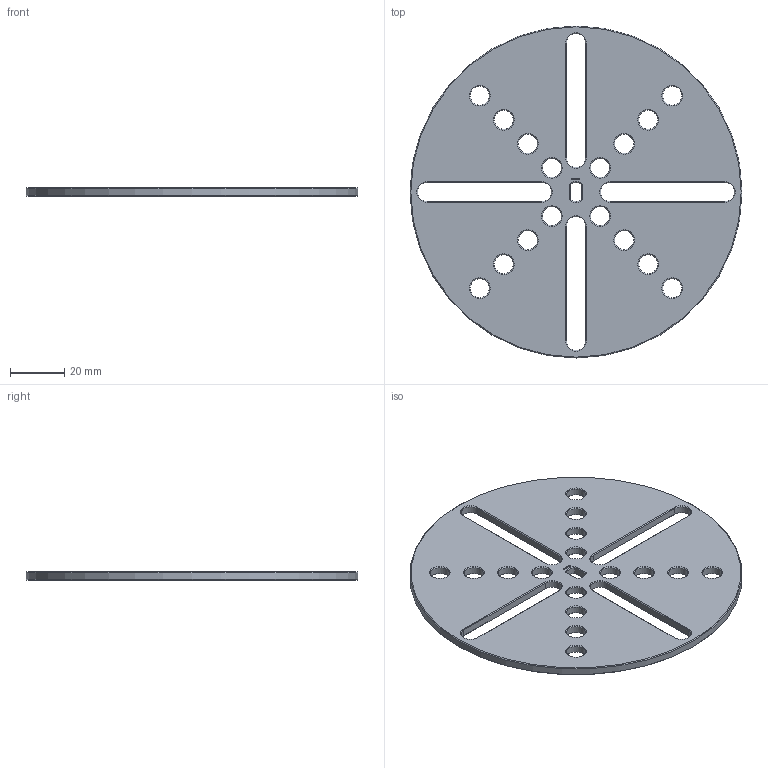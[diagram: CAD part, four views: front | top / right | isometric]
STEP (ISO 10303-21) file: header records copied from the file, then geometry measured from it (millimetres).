
FILE_DESCRIPTION(/* description */ (''),/* implementation_level */ '2;1');
FILE_NAME(/* name */ '/Users/paulokiefe/Desktop/STEMFIE/Fasteners/Washers/Fixed/Washer WSR FXD BU0.25x9.75 - SPN-WSR-0036 v1.step',/* time_stamp */ '2020-09-27T23:23:49+02:00',/* author */ (''),/* organization */ (''),/* preprocessor_version */ 'ST-DEVELOPER v18.1',/* originating_system */ 'Autodesk Translation Framework v9.3.0.1241',/* authorisation */ '');
FILE_SCHEMA (('AUTOMOTIVE_DESIGN { 1 0 10303 214 3 1 1 }'));
Length unit declared in the file: millimetre
Products named in the file (1): Washer WSR FXD BU0.25x9.75 - SPN-WSR-0036
Bounding box: 121.88 x 121.88 x 3.12 mm (x, y, z)
Volume: 30162.5 mm3; surface area: 22652.5 mm2
Topology: 1 solids, 1 shells, 357 faces, 955 edges, 612 vertices
Faces by surface type: plane 276, cone 54, cylinder 27
Full cylindrical faces by diameter (mm): 7 x16, 121.875 x1
Entity records: 11030 total; most frequent: CARTESIAN_POINT 1949, ORIENTED_EDGE 1910, DIRECTION 1771, EDGE_CURVE 955, LINE 839, VECTOR 839, VERTEX_POINT 612, AXIS2_PLACEMENT_3D 466
